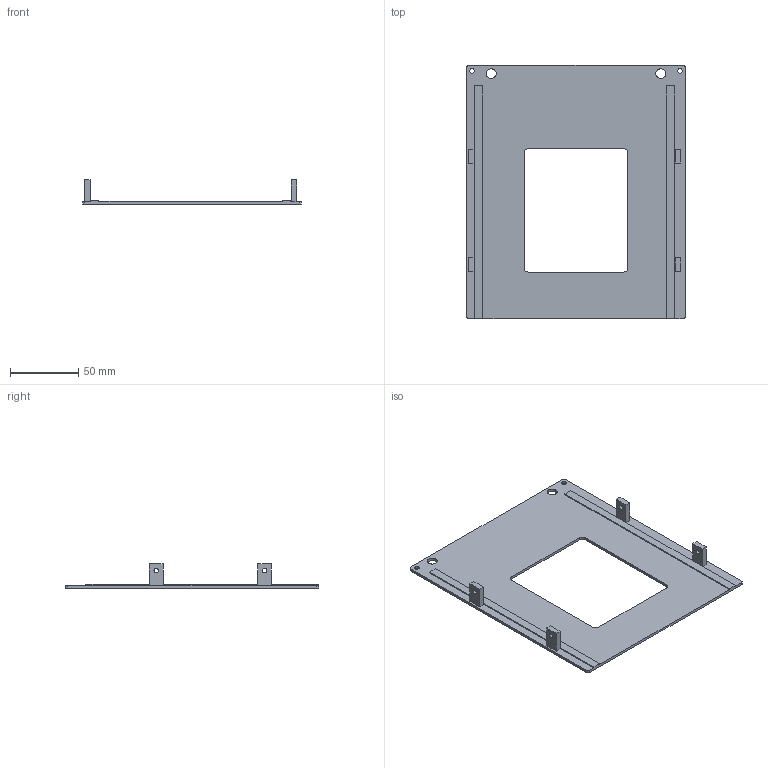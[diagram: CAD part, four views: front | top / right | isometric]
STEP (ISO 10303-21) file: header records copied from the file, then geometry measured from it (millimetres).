
FILE_DESCRIPTION(('Open CASCADE Model'),'2;1');
FILE_NAME('Open CASCADE Shape Model','2026-11-07T16:11:37',('Author'),( 'Open CASCADE'),'Open CASCADE STEP processor 7.9','Open CASCADE 7.9' ,'Unknown');
FILE_SCHEMA(('AUTOMOTIVE_DESIGN { 1 0 10303 214 1 1 1 1 }'));
Length unit declared in the file: millimetre
Products named in the file (1): Open CASCADE STEP translator 7.9 4
Bounding box: 160 x 185 x 17.8 mm (x, y, z)
Volume: 49357.7 mm3; surface area: 49925.3 mm2
Topology: 1 solids, 1 shells, 54 faces, 144 edges, 96 vertices
Faces by surface type: plane 38, cylinder 16
Full cylindrical faces by diameter (mm): 3.3 x6, 7.2 x2
Entity records: 3642 total; most frequent: CARTESIAN_POINT 719, DIRECTION 538, LINE 352, VECTOR 352, ORIENTED_EDGE 288, PCURVE 288, DEFINITIONAL_REPRESENTATION 288, EDGE_CURVE 144
